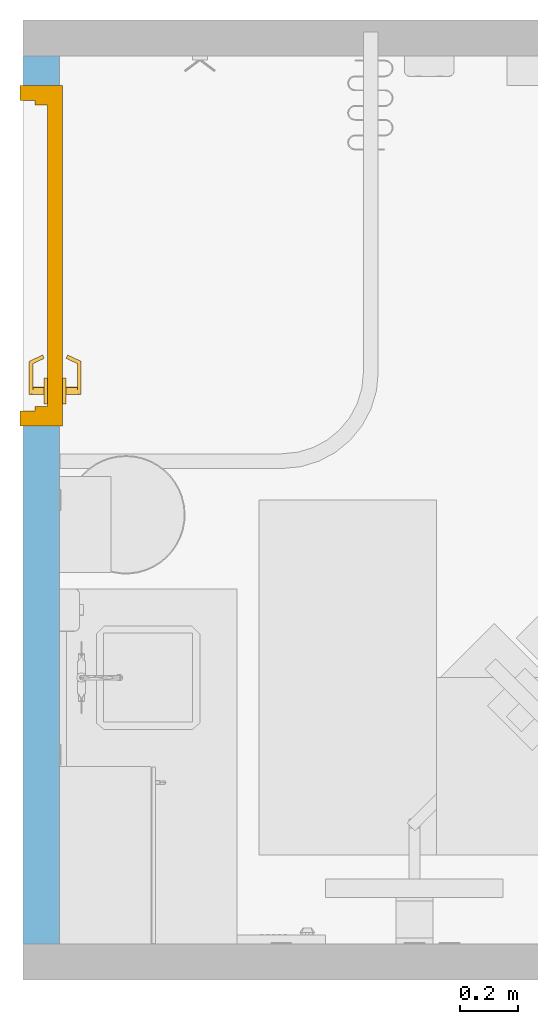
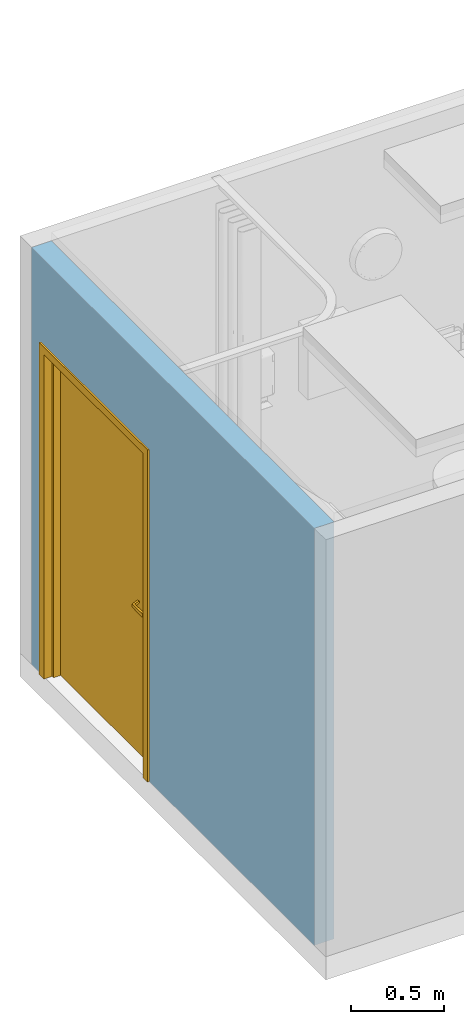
# One storey, part 2 of 9: 1 door, 1 opening, plus 1 element that does not belong to this part.
"""IFC2X3 building model written with IfcOpenShell, lengths in feet."""

from ifc_helpers import new_model, entity, si_unit, converted_unit, derived_unit, direction, frame, frame_2d, origin, place, context, subcontext, project, spatial, rectangle, extrude, faceted_brep, source, transform, mapped, material, layer, layer_set, layer_usage, type_object, type_shapes, element, fill, save


model = new_model("IFC2X3")

# Units and contexts
model_context = context("Model", 3, precision=0.0001, world=origin(), true_north=direction((6.12303176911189e-17, 1.0)))
body_context = subcontext(model_context, "Body", "Model", "MODEL_VIEW")
ifc_project = project(units=[converted_unit("LENGTHUNIT", "FOOT", entity("IfcRatioMeasure", 0.3048), si_unit("LENGTHUNIT", "METRE"), dimensions=[1, 0, 0, 0, 0, 0, 0]), converted_unit("AREAUNIT", "SQUARE FOOT", entity("IfcRatioMeasure", 0.09290304), si_unit("AREAUNIT", "SQUARE_METRE"), dimensions=[2, 0, 0, 0, 0, 0, 0]), converted_unit("VOLUMEUNIT", "CUBIC FOOT", entity("IfcRatioMeasure", 0.028316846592), si_unit("VOLUMEUNIT", "CUBIC_METRE"), dimensions=[3, 0, 0, 0, 0, 0, 0]), converted_unit("PLANEANGLEUNIT", "DEGREE", entity("IfcRatioMeasure", 0.0174532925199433), si_unit("PLANEANGLEUNIT", "RADIAN"), dimensions=[0, 0, 0, 0, 0, 0, 0]), si_unit("MASSUNIT", "GRAM", prefix="KILO"), derived_unit("MASSDENSITYUNIT", [(si_unit("MASSUNIT", "GRAM", prefix="KILO"), 1), (si_unit("LENGTHUNIT", "METRE"), -3)]), si_unit("TIMEUNIT", "SECOND"), si_unit("FREQUENCYUNIT", "HERTZ"), si_unit("THERMODYNAMICTEMPERATUREUNIT", "DEGREE_CELSIUS"), derived_unit("THERMALTRANSMITTANCEUNIT", [(si_unit("MASSUNIT", "GRAM", prefix="KILO"), 1), (si_unit("THERMODYNAMICTEMPERATUREUNIT", "KELVIN"), -1), (si_unit("TIMEUNIT", "SECOND"), -3)]), derived_unit("VOLUMETRICFLOWRATEUNIT", [(si_unit("LENGTHUNIT", "METRE"), 3), (si_unit("TIMEUNIT", "SECOND"), -1)]), si_unit("ELECTRICCURRENTUNIT", "AMPERE"), si_unit("ELECTRICVOLTAGEUNIT", "VOLT"), si_unit("POWERUNIT", "WATT"), si_unit("FORCEUNIT", "NEWTON"), si_unit("ILLUMINANCEUNIT", "LUX"), si_unit("LUMINOUSFLUXUNIT", "LUMEN"), si_unit("LUMINOUSINTENSITYUNIT", "CANDELA"), derived_unit("USERDEFINED", [(si_unit("MASSUNIT", "GRAM", prefix="KILO"), -1), (si_unit("LENGTHUNIT", "METRE"), -2), (si_unit("TIMEUNIT", "SECOND"), 3), (si_unit("LUMINOUSFLUXUNIT", "LUMEN"), 1)]), derived_unit("LINEARVELOCITYUNIT", [(si_unit("LENGTHUNIT", "METRE"), 1), (si_unit("TIMEUNIT", "SECOND"), -1)]), si_unit("PRESSUREUNIT", "PASCAL"), derived_unit("USERDEFINED", [(si_unit("LENGTHUNIT", "METRE"), -2), (si_unit("MASSUNIT", "GRAM", prefix="KILO"), 1), (si_unit("TIMEUNIT", "SECOND"), -2)])], contexts=[model_context])

# Site, building, storey
site_placement = place(None, origin())
site = spatial("IfcSite", under=ifc_project, at=site_placement, Name="Default", CompositionType="ELEMENT")
building_placement = place(site_placement, origin())
building = spatial("IfcBuilding", under=site, at=building_placement, Name="OUTPATIENT / PACT CLINIC (Ch. 265)", CompositionType="ELEMENT")
storey_placement = place(building_placement, origin())
storey = spatial("IfcBuildingStorey", under=building, at=storey_placement, Name="DATUM", CompositionType="ELEMENT", Elevation=0.0)

# Wall, opening, door
ifc_material = material(Name="<Unnamed>")
ifc_layer = layer(ifc_material, 0.40625)
ifc_layer_set = layer_set([ifc_layer], Name="Basic Wall:Interior - 4 7/8\"")
ifc_layer_usage = layer_usage(ifc_layer_set, "AXIS2", "POSITIVE", -0.203125)
wall_type = type_object("IfcWallType", Name="Basic Wall:Interior - 4 7/8\"", PredefinedType="STANDARD", material=ifc_layer_set)
wall_placement = place(storey_placement, frame((209.508362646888, -852.823304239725, 0.0), z_axis=(0.0, 0.0, 1.0), x_axis=(0.0, -1.0, 0.0)))
wall = element("IfcWallStandardCase", 1, at=wall_placement, inside=storey, type_object=wall_type, material=ifc_layer_usage, Name="Basic Wall:Interior - 4 7/8\"", ObjectType="Basic Wall:Interior - 4 7/8\"", context=body_context, shape_type="SweptSolid", body=[
    extrude(rectangle(XDim=10.0000000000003, YDim=0.40625, at=frame_2d((5.00000000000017, 7.82707232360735e-15), x_axis=(-1.0, 0.0))), origin(), (0.0, 0.0, 1.0), 9.0),
])
opening_placement = place(wall_placement, frame((0.333333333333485, -0.203125, 0.0)))
opening = element("IfcOpeningElement", 2, at=opening_placement, cuts=wall, Name="Single - Flush:42\" x 84\":1", ObjectType="Opening", context=body_context, shape_type="SweptSolid", body=[
    extrude(rectangle(XDim=3.83333333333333, YDim=7.16666666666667, at=frame_2d((3.58333333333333, 1.91666666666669), x_axis=(0.0, -1.0))), frame((0.0, 0.0, 0.0), z_axis=(0.0, 1.0, 0.0), x_axis=(0.0, 0.0, 1.0)), (0.0, 0.0, 1.0), 0.40625),
])
door_style = type_object("IfcDoorStyle", Name="42\" x 84\"", ConstructionType="NOTDEFINED", OperationType="NOTDEFINED", ParameterTakesPrecedence=False, Sizeable=False)
shared_shape = source(origin(), body_context, "Body", "Brep", [
    faceted_brep([(3.12432039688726, 0.123080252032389, 3.36458333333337), (3.1307112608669, 0.109375, 3.36458333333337), (3.1307112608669, 0.109375, 3.30208333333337), (3.12432039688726, 0.12308025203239, 3.30208333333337), (3.07149311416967, 0.23636872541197, 3.31250000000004), (3.07149311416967, 0.23636872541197, 3.3541666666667), (3.03373028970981, 0.218759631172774, 3.31250000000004), (3.0865575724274, 0.105471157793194, 3.30208333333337), (3.10416666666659, 0.0677083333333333, 3.30208333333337), (3.10416666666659, 0.067708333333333, 3.36458333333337), (3.0865575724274, 0.105471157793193, 3.36458333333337), (3.03373028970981, 0.218759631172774, 3.3541666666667), (3.10416666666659, 0.109375, 3.30208333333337), (3.10416666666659, 0.109375, 3.36458333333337), (3.43619600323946, 0.0677083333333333, 3.29168707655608), (3.44639661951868, 0.0677083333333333, 3.29262754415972), (3.45605949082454, 0.0677083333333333, 3.29602842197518), (3.46460055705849, 0.0677083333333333, 3.3016841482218), (3.47150356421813, 0.0677083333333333, 3.30925286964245), (3.47635126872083, 0.0677083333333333, 3.31827710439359), (3.47885065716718, 0.0677083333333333, 3.32821139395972), (3.47885065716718, 0.0677083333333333, 3.33845527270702), (3.47635126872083, 0.0677083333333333, 3.34838956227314), (3.47150356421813, 0.0677083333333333, 3.35741379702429), (3.46460055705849, 0.0677083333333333, 3.36498251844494), (3.45605949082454, 0.0677083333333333, 3.37063824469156), (3.44639661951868, 0.0677083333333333, 3.37403912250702), (3.43619600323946, 0.0677083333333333, 3.37497959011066), (3.42566985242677, 0.109375, 3.29338137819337), (3.43619600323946, 0.109375, 3.29168707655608), (3.43619600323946, 0.109375, 3.37497959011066), (3.42566985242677, 0.109375, 3.37328528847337), (3.41591827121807, 0.109375, 3.36897516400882), (3.40757973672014, 0.109375, 3.36233141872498), (3.40120020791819, 0.109375, 3.35378904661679), (3.3971973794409, 0.109375, 3.34390735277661), (3.39583333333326, 0.109375, 3.33333333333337), (3.3971973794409, 0.109375, 3.32275931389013), (3.40120020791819, 0.109375, 3.31287762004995), (3.40757973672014, 0.109375, 3.30433524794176), (3.41591827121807, 0.109375, 3.29769150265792), (3.44568224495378, 0.109375, 3.29247795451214), (3.45473886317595, 0.109375, 3.2954000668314), (3.46289592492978, 0.109375, 3.30030065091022), (3.46972778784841, 0.109375, 3.30692347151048), (3.47487870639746, 0.109375, 3.31492291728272), (3.47808054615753, 0.109375, 3.32388185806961), (3.47916666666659, 0.109375, 3.33333333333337), (3.47808054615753, 0.109375, 3.34278480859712), (3.47487870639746, 0.109375, 3.35174374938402), (3.46972778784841, 0.109375, 3.35974319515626), (3.46289592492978, 0.109375, 3.36636601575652), (3.45473886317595, 0.109375, 3.37126659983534), (3.44568224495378, 0.109375, 3.3741887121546), (3.47774690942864, 0.234375, 3.34411746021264), (3.47916666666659, 0.234375, 3.33333333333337), (3.47358439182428, 0.234375, 3.3541666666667), (3.46696278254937, 0.234375, 3.36279611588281), (3.45833333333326, 0.234375, 3.36941772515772), (3.4482841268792, 0.234375, 3.37358024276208), (3.43749999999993, 0.234375, 3.37500000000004), (3.42671587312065, 0.234375, 3.37358024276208), (3.41666666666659, 0.234375, 3.36941772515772), (3.40803721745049, 0.234375, 3.36279611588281), (3.40141560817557, 0.234375, 3.3541666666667), (3.39725309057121, 0.234375, 3.34411746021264), (3.39583333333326, 0.234375, 3.33333333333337), (3.39725309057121, 0.234375, 3.3225492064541), (3.40141560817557, 0.234375, 3.31250000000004), (3.40803721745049, 0.234375, 3.30387055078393), (3.41666666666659, 0.234375, 3.29724894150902), (3.42671587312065, 0.234375, 3.29308642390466), (3.43749999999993, 0.234375, 3.2916666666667), (3.4482841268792, 0.234375, 3.29308642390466), (3.45833333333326, 0.234375, 3.29724894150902), (3.46696278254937, 0.234375, 3.30387055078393), (3.47358439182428, 0.234375, 3.31250000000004), (3.47774690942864, 0.234375, 3.3225492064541), (3.36458333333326, 0.234375, 3.4596287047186), (3.33438026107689, 0.234375, 3.43645307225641), (3.39975555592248, 0.234375, 3.47419751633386), (3.43749999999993, 0.234375, 3.4791666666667), (3.47524444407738, 0.234375, 3.47419751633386), (3.51041666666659, 0.234375, 3.4596287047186), (3.54061973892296, 0.234375, 3.43645307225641), (3.56379537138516, 0.234375, 3.40625000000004), (3.57836418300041, 0.234375, 3.37107777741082), (3.58333333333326, 0.234375, 3.33333333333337), (3.57836418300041, 0.234375, 3.29558888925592), (3.56379537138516, 0.234375, 3.2604166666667), (3.54061973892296, 0.234375, 3.23021359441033), (3.51041666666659, 0.234375, 3.20703796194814), (3.47524444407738, 0.234375, 3.19246915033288), (3.43749999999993, 0.234375, 3.18750000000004), (3.39975555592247, 0.234375, 3.19246915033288), (3.36458333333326, 0.234375, 3.20703796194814), (3.33438026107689, 0.234375, 3.23021359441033), (3.3112046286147, 0.234375, 3.2604166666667), (3.29663581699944, 0.234375, 3.29558888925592), (3.29166666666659, 0.234375, 3.33333333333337), (3.29663581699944, 0.234375, 3.37107777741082), (3.3112046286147, 0.234375, 3.40625000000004), (3.33438026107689, 0.276041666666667, 3.23021359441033), (3.3112046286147, 0.276041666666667, 3.2604166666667), (3.29663581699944, 0.276041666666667, 3.29558888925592), (3.29166666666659, 0.276041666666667, 3.33333333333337), (3.29663581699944, 0.276041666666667, 3.37107777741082), (3.3112046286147, 0.276041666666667, 3.40625000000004), (3.33438026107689, 0.276041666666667, 3.43645307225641), (3.36458333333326, 0.276041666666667, 3.4596287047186), (3.39975555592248, 0.276041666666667, 3.47419751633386), (3.43749999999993, 0.276041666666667, 3.4791666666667), (3.47524444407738, 0.276041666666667, 3.47419751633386), (3.51041666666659, 0.276041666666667, 3.4596287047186), (3.54061973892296, 0.276041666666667, 3.43645307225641), (3.56379537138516, 0.276041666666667, 3.40625000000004), (3.57836418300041, 0.276041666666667, 3.37107777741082), (3.58333333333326, 0.276041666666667, 3.33333333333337), (3.57836418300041, 0.276041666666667, 3.29558888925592), (3.56379537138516, 0.276041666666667, 3.2604166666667), (3.54061973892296, 0.276041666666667, 3.23021359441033), (3.51041666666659, 0.276041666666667, 3.20703796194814), (3.47524444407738, 0.276041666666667, 3.19246915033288), (3.43749999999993, 0.276041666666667, 3.18750000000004), (3.39975555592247, 0.276041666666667, 3.19246915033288), (3.36458333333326, 0.276041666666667, 3.20703796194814)], [[[0, 1, 2, 3, 4, 5]], [[6, 7, 8, 9, 10, 11]], [[3, 2, 12, 8, 7]], [[4, 3, 7, 6]], [[5, 4, 6, 11]], [[0, 5, 11, 10]], [[1, 0, 10, 9, 13]], [[9, 8, 14, 15, 16, 17, 18, 19, 20, 21, 22, 23, 24, 25, 26, 27]], [[28, 29, 12, 2, 1, 13, 30, 31, 32, 33, 34, 35, 36, 37, 38, 39, 40]], [[14, 8, 12, 29]], [[41, 14, 29]], [[42, 15, 41]], [[17, 43, 44]], [[44, 45, 18]], [[42, 43, 16]], [[46, 19, 45]], [[42, 16, 15]], [[15, 14, 41]], [[19, 18, 45]], [[17, 44, 18]], [[17, 16, 43]], [[20, 19, 46]], [[46, 47, 20]], [[48, 21, 47]], [[49, 22, 48]], [[24, 50, 51]], [[51, 52, 25]], [[49, 50, 23]], [[53, 26, 52]], [[24, 23, 50]], [[23, 22, 49]], [[22, 21, 48]], [[27, 26, 53]], [[25, 52, 26]], [[25, 24, 51]], [[27, 53, 30]], [[47, 21, 20]], [[9, 27, 30, 13]], [[54, 48, 55]], [[56, 49, 54]], [[51, 57, 58]], [[56, 57, 50]], [[52, 58, 59]], [[54, 49, 48]], [[48, 47, 55]], [[52, 51, 58]], [[50, 57, 51]], [[50, 49, 56]], [[53, 52, 59]], [[59, 60, 53]], [[61, 30, 60]], [[62, 31, 61]], [[33, 63, 64]], [[64, 65, 34]], [[62, 63, 32]], [[66, 35, 65]], [[62, 32, 31]], [[31, 30, 61]], [[35, 34, 65]], [[33, 64, 34]], [[33, 32, 63]], [[36, 35, 66]], [[60, 30, 53]], [[67, 37, 66]], [[68, 38, 67]], [[40, 69, 70]], [[68, 69, 39]], [[28, 70, 71]], [[67, 38, 37]], [[37, 36, 66]], [[28, 40, 70]], [[39, 69, 40]], [[39, 38, 68]], [[29, 28, 71]], [[71, 72, 29]], [[73, 41, 72]], [[74, 42, 73]], [[44, 75, 76]], [[76, 77, 45]], [[74, 75, 43]], [[55, 46, 77]], [[74, 43, 42]], [[42, 41, 73]], [[46, 45, 77]], [[44, 76, 45]], [[44, 43, 75]], [[47, 46, 55]], [[72, 41, 29]], [[62, 61, 78]], [[79, 62, 78]], [[62, 79, 63]], [[61, 80, 78]], [[80, 61, 60]], [[80, 60, 81]], [[59, 81, 60]], [[81, 59, 82]], [[59, 58, 82]], [[83, 82, 58]], [[57, 83, 58]], [[83, 57, 84]], [[56, 84, 57]], [[85, 84, 56]], [[54, 85, 56]], [[86, 85, 54]], [[86, 54, 55]], [[86, 55, 87]], [[87, 55, 77]], [[87, 77, 88]], [[88, 77, 76]], [[88, 76, 89]], [[90, 89, 76]], [[90, 76, 75]], [[75, 91, 90]], [[75, 74, 91]], [[92, 91, 74]], [[73, 92, 74]], [[73, 93, 92]], [[93, 73, 72]], [[72, 94, 93]], [[71, 94, 72]], [[94, 71, 95]], [[70, 95, 71]], [[96, 95, 70]], [[96, 70, 69]], [[96, 69, 97]], [[97, 69, 68]], [[97, 68, 98]], [[67, 98, 68]], [[99, 98, 67]], [[67, 66, 99]], [[66, 100, 99]], [[100, 66, 65]], [[100, 65, 101]], [[65, 64, 101]], [[63, 101, 64]], [[79, 101, 63]], [[102, 103, 104, 105, 106, 107, 108, 109, 110, 111, 112, 113, 114, 115, 116, 117, 118, 119, 120, 121, 122, 123, 124, 125]], [[116, 86, 87, 117]], [[115, 85, 86, 116]], [[83, 84, 114, 113]], [[115, 114, 84, 85]], [[82, 83, 113, 112]], [[81, 82, 112, 111]], [[110, 80, 81, 111]], [[109, 78, 80, 110]], [[101, 79, 108, 107]], [[109, 108, 79, 78]], [[100, 101, 107, 106]], [[99, 100, 106, 105]], [[104, 98, 99, 105]], [[103, 97, 98, 104]], [[95, 96, 102, 125]], [[103, 102, 96, 97]], [[94, 95, 125, 124]], [[93, 94, 124, 123]], [[122, 92, 93, 123]], [[121, 91, 92, 122]], [[89, 90, 120, 119]], [[121, 120, 90, 91]], [[88, 89, 119, 118]], [[87, 88, 118, 117]]]),
    faceted_brep([(3.12432039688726, 0.595669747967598, 3.30208333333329), (3.13071126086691, 0.609374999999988, 3.30208333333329), (3.13071126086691, 0.609374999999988, 3.36458333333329), (3.12432039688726, 0.595669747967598, 3.36458333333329), (3.07149311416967, 0.482381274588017, 3.35416666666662), (3.07149311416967, 0.482381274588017, 3.31249999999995), (3.03373028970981, 0.499990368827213, 3.35416666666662), (3.0865575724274, 0.613278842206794, 3.36458333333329), (3.10416666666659, 0.651041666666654, 3.36458333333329), (3.10416666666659, 0.651041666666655, 3.30208333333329), (3.0865575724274, 0.613278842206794, 3.30208333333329), (3.03373028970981, 0.499990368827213, 3.31249999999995), (3.10416666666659, 0.609374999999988, 3.36458333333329), (3.10416666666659, 0.609374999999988, 3.30208333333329), (3.43619600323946, 0.651041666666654, 3.37497959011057), (3.44639661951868, 0.651041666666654, 3.37403912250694), (3.45605949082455, 0.651041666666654, 3.37063824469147), (3.46460055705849, 0.651041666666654, 3.36498251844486), (3.47150356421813, 0.651041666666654, 3.35741379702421), (3.47635126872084, 0.651041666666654, 3.34838956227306), (3.47885065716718, 0.651041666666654, 3.33845527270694), (3.47885065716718, 0.651041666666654, 3.32821139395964), (3.47635126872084, 0.651041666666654, 3.31827710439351), (3.47150356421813, 0.651041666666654, 3.30925286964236), (3.4646005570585, 0.651041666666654, 3.30168414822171), (3.45605949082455, 0.651041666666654, 3.2960284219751), (3.44639661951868, 0.651041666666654, 3.29262754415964), (3.43619600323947, 0.651041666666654, 3.291687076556), (3.42566985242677, 0.609374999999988, 3.37328528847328), (3.43619600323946, 0.609374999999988, 3.37497959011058), (3.43619600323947, 0.609374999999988, 3.291687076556), (3.42566985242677, 0.609374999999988, 3.29338137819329), (3.41591827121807, 0.609374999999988, 3.29769150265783), (3.40757973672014, 0.609374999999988, 3.30433524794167), (3.40120020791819, 0.609374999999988, 3.31287762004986), (3.3971973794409, 0.609374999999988, 3.32275931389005), (3.39583333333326, 0.609374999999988, 3.33333333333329), (3.3971973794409, 0.609374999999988, 3.34390735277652), (3.40120020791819, 0.609374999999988, 3.35378904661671), (3.40757973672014, 0.609374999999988, 3.3623314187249), (3.41591827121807, 0.609374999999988, 3.36897516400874), (3.44568224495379, 0.609374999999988, 3.37418871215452), (3.45473886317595, 0.609374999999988, 3.37126659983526), (3.46289592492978, 0.609374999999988, 3.36636601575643), (3.46972778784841, 0.609374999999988, 3.35974319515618), (3.47487870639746, 0.609374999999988, 3.35174374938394), (3.47808054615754, 0.609374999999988, 3.34278480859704), (3.47916666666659, 0.609374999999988, 3.33333333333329), (3.47808054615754, 0.609374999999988, 3.32388185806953), (3.47487870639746, 0.609374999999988, 3.31492291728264), (3.46972778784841, 0.609374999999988, 3.30692347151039), (3.46289592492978, 0.609374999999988, 3.30030065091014), (3.45473886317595, 0.609374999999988, 3.29540006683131), (3.44568224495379, 0.609374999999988, 3.29247795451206), (3.47774690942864, 0.484374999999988, 3.32254920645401), (3.47916666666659, 0.484374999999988, 3.33333333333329), (3.47358439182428, 0.484374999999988, 3.31249999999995), (3.46696278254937, 0.484374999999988, 3.30387055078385), (3.45833333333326, 0.484374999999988, 3.29724894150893), (3.4482841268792, 0.484374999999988, 3.29308642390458), (3.43749999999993, 0.484374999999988, 3.29166666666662), (3.42671587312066, 0.484374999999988, 3.29308642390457), (3.41666666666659, 0.484374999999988, 3.29724894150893), (3.40803721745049, 0.484374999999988, 3.30387055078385), (3.40141560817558, 0.484374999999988, 3.31249999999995), (3.39725309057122, 0.484374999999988, 3.32254920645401), (3.39583333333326, 0.484374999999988, 3.33333333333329), (3.39725309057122, 0.484374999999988, 3.34411746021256), (3.40141560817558, 0.484374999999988, 3.35416666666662), (3.40803721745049, 0.484374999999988, 3.36279611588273), (3.41666666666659, 0.484374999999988, 3.36941772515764), (3.42671587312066, 0.484374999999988, 3.373580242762), (3.43749999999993, 0.484374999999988, 3.37499999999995), (3.4482841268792, 0.484374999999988, 3.373580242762), (3.45833333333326, 0.484374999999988, 3.36941772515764), (3.46696278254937, 0.484374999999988, 3.36279611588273), (3.47358439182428, 0.484374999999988, 3.35416666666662), (3.47774690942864, 0.484374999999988, 3.34411746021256), (3.36458333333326, 0.484374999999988, 3.20703796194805), (3.33438026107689, 0.484374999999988, 3.23021359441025), (3.39975555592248, 0.484374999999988, 3.1924691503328), (3.43749999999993, 0.484374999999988, 3.18749999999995), (3.47524444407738, 0.484374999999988, 3.1924691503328), (3.51041666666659, 0.484374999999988, 3.20703796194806), (3.54061973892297, 0.484374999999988, 3.23021359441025), (3.56379537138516, 0.484374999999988, 3.26041666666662), (3.57836418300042, 0.484374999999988, 3.29558888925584), (3.58333333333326, 0.484374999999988, 3.33333333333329), (3.57836418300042, 0.484374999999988, 3.37107777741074), (3.56379537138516, 0.484374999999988, 3.40624999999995), (3.54061973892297, 0.484374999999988, 3.43645307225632), (3.51041666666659, 0.484374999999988, 3.45962870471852), (3.47524444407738, 0.484374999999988, 3.47419751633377), (3.43749999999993, 0.484374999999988, 3.47916666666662), (3.39975555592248, 0.484374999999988, 3.47419751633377), (3.36458333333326, 0.484374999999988, 3.45962870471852), (3.33438026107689, 0.484374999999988, 3.43645307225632), (3.3112046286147, 0.484374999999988, 3.40624999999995), (3.29663581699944, 0.484374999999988, 3.37107777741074), (3.29166666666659, 0.484374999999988, 3.33333333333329), (3.29663581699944, 0.484374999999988, 3.29558888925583), (3.3112046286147, 0.484374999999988, 3.26041666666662), (3.33438026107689, 0.442708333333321, 3.43645307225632), (3.3112046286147, 0.442708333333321, 3.40624999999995), (3.29663581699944, 0.442708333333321, 3.37107777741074), (3.29166666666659, 0.442708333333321, 3.33333333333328), (3.29663581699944, 0.442708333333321, 3.29558888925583), (3.3112046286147, 0.442708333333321, 3.26041666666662), (3.33438026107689, 0.442708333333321, 3.23021359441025), (3.36458333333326, 0.442708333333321, 3.20703796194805), (3.39975555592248, 0.442708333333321, 3.1924691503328), (3.43749999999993, 0.442708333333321, 3.18749999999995), (3.47524444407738, 0.442708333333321, 3.1924691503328), (3.51041666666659, 0.442708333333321, 3.20703796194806), (3.54061973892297, 0.442708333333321, 3.23021359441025), (3.56379537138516, 0.442708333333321, 3.26041666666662), (3.57836418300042, 0.442708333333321, 3.29558888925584), (3.58333333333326, 0.442708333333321, 3.33333333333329), (3.57836418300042, 0.442708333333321, 3.37107777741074), (3.56379537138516, 0.442708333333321, 3.40624999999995), (3.54061973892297, 0.442708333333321, 3.43645307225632), (3.51041666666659, 0.442708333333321, 3.45962870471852), (3.47524444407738, 0.442708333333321, 3.47419751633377), (3.43749999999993, 0.442708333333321, 3.47916666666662), (3.39975555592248, 0.442708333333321, 3.47419751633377), (3.36458333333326, 0.442708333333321, 3.45962870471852)], [[[0, 1, 2, 3, 4, 5]], [[6, 7, 8, 9, 10, 11]], [[3, 2, 12, 8, 7]], [[4, 3, 7, 6]], [[5, 4, 6, 11]], [[0, 5, 11, 10]], [[1, 0, 10, 9, 13]], [[9, 8, 14, 15, 16, 17, 18, 19, 20, 21, 22, 23, 24, 25, 26, 27]], [[28, 29, 12, 2, 1, 13, 30, 31, 32, 33, 34, 35, 36, 37, 38, 39, 40]], [[14, 8, 12, 29]], [[41, 14, 29]], [[42, 15, 41]], [[17, 43, 44]], [[44, 45, 18]], [[42, 43, 16]], [[46, 19, 45]], [[42, 16, 15]], [[15, 14, 41]], [[19, 18, 45]], [[17, 44, 18]], [[17, 16, 43]], [[20, 19, 46]], [[46, 47, 20]], [[48, 21, 47]], [[49, 22, 48]], [[24, 50, 51]], [[51, 52, 25]], [[49, 50, 23]], [[53, 26, 52]], [[24, 23, 50]], [[23, 22, 49]], [[22, 21, 48]], [[27, 26, 53]], [[25, 52, 26]], [[25, 24, 51]], [[27, 53, 30]], [[47, 21, 20]], [[9, 27, 30, 13]], [[54, 48, 55]], [[56, 49, 54]], [[51, 57, 58]], [[56, 57, 50]], [[52, 58, 59]], [[54, 49, 48]], [[48, 47, 55]], [[52, 51, 58]], [[50, 57, 51]], [[50, 49, 56]], [[53, 52, 59]], [[59, 60, 53]], [[61, 30, 60]], [[62, 31, 61]], [[33, 63, 64]], [[64, 65, 34]], [[62, 63, 32]], [[66, 35, 65]], [[62, 32, 31]], [[31, 30, 61]], [[35, 34, 65]], [[33, 64, 34]], [[33, 32, 63]], [[36, 35, 66]], [[60, 30, 53]], [[67, 37, 66]], [[68, 38, 67]], [[40, 69, 70]], [[68, 69, 39]], [[28, 70, 71]], [[67, 38, 37]], [[37, 36, 66]], [[28, 40, 70]], [[39, 69, 40]], [[39, 38, 68]], [[29, 28, 71]], [[71, 72, 29]], [[73, 41, 72]], [[74, 42, 73]], [[44, 75, 76]], [[76, 77, 45]], [[74, 75, 43]], [[55, 46, 77]], [[74, 43, 42]], [[42, 41, 73]], [[46, 45, 77]], [[44, 76, 45]], [[44, 43, 75]], [[47, 46, 55]], [[72, 41, 29]], [[62, 61, 78]], [[79, 62, 78]], [[62, 79, 63]], [[61, 80, 78]], [[80, 61, 60]], [[80, 60, 81]], [[59, 81, 60]], [[81, 59, 82]], [[59, 58, 82]], [[83, 82, 58]], [[57, 83, 58]], [[83, 57, 84]], [[56, 84, 57]], [[85, 84, 56]], [[54, 85, 56]], [[86, 85, 54]], [[86, 54, 55]], [[86, 55, 87]], [[87, 55, 77]], [[87, 77, 88]], [[88, 77, 76]], [[88, 76, 89]], [[90, 89, 76]], [[90, 76, 75]], [[75, 91, 90]], [[75, 74, 91]], [[92, 91, 74]], [[73, 92, 74]], [[73, 93, 92]], [[93, 73, 72]], [[72, 94, 93]], [[71, 94, 72]], [[94, 71, 95]], [[70, 95, 71]], [[96, 95, 70]], [[96, 70, 69]], [[96, 69, 97]], [[97, 69, 68]], [[97, 68, 98]], [[67, 98, 68]], [[99, 98, 67]], [[67, 66, 99]], [[66, 100, 99]], [[100, 66, 65]], [[100, 65, 101]], [[65, 64, 101]], [[63, 101, 64]], [[79, 101, 63]], [[102, 103, 104, 105, 106, 107, 108, 109, 110, 111, 112, 113, 114, 115, 116, 117, 118, 119, 120, 121, 122, 123, 124, 125]], [[116, 86, 87, 117]], [[115, 85, 86, 116]], [[83, 84, 114, 113]], [[115, 114, 84, 85]], [[82, 83, 113, 112]], [[81, 82, 112, 111]], [[110, 80, 81, 111]], [[109, 78, 80, 110]], [[101, 79, 108, 107]], [[109, 108, 79, 78]], [[100, 101, 107, 106]], [[99, 100, 106, 105]], [[104, 98, 99, 105]], [[103, 97, 98, 104]], [[95, 96, 102, 125]], [[103, 102, 96, 97]], [[94, 95, 125, 124]], [[93, 94, 124, 123]], [[122, 92, 93, 123]], [[121, 91, 92, 122]], [[89, 90, 120, 119]], [[121, 120, 90, 91]], [[88, 89, 119, 118]], [[87, 88, 118, 117]]]),
    faceted_brep([(0.16666666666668, 0.442708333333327, 7.0), (3.66666666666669, 0.442708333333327, 7.0), (3.66666666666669, 0.442708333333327, 0.0), (0.16666666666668, 0.442708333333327, 0.0), (0.16666666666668, 0.276041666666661, 7.0), (0.16666666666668, 0.276041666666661, 0.0), (3.66666666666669, 0.276041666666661, 0.0), (3.66666666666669, 0.276041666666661, 7.0)], [[[0, 1, 2, 3]], [[4, 5, 6, 7]], [[1, 0, 4, 7]], [[2, 1, 7, 6]], [[3, 2, 6, 5]], [[0, 3, 5, 4]]]),
    faceted_brep([(0.166666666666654, 0.442708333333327, 0.0), (0.166666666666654, 0.276041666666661, 0.0), (0.218749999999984, 0.276041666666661, 0.0), (0.218749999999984, 0.130208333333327, 0.0), (0.166666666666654, 0.130208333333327, 0.0), (0.166666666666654, -0.0364583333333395, 0.0), (0.0, -0.0364583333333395, 0.0), (0.0, 0.442708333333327, 0.0), (0.166666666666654, 0.442708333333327, 7.0), (0.166666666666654, 0.276041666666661, 7.0), (3.66666666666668, 0.276041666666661, 7.0), (3.66666666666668, 0.276041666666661, 0.0), (3.61458333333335, 0.27604166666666, 0.0), (3.61458333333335, 0.276041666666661, 6.94791666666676), (0.218749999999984, 0.276041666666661, 6.94791666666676), (0.218749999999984, 0.130208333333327, 6.94791666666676), (3.61458333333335, 0.130208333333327, 6.94791666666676), (3.61458333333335, 0.130208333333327, 0.0), (3.66666666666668, 0.130208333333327, 0.0), (3.66666666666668, 0.130208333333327, 7.0), (0.166666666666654, 0.130208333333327, 7.0), (0.166666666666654, -0.0364583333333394, 7.0), (3.66666666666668, -0.0364583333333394, 7.0), (3.66666666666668, -0.0364583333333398, 0.0), (3.83333333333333, -0.0364583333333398, 0.0), (3.83333333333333, -0.0364583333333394, 7.16666666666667), (0.0, -0.0364583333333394, 7.16666666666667), (0.0, 0.442708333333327, 7.16666666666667), (3.83333333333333, 0.442708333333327, 7.16666666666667), (3.83333333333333, 0.442708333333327, 0.0), (3.66666666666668, 0.442708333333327, 0.0), (3.66666666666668, 0.442708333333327, 7.0)], [[[0, 1, 2, 3, 4, 5, 6, 7]], [[1, 0, 8, 9]], [[2, 1, 9, 10, 11, 12, 13, 14]], [[3, 2, 14, 15]], [[4, 3, 15, 16, 17, 18, 19, 20]], [[5, 4, 20, 21]], [[6, 5, 21, 22, 23, 24, 25, 26]], [[7, 6, 26, 27]], [[0, 7, 27, 28, 29, 30, 31, 8]], [[30, 11, 10, 31]], [[30, 29, 24, 23, 18, 17, 12, 11]], [[12, 17, 16, 13]], [[19, 18, 23, 22]], [[29, 28, 25, 24]], [[10, 9, 8, 31]], [[15, 14, 13, 16]], [[21, 20, 19, 22]], [[25, 28, 27, 26]]]),
])
type_shapes(door_style, [shared_shape])
door_placement = place(opening_placement, origin())
door = element("IfcDoor", 3, at=door_placement, inside=storey, type_object=door_style, Name="Single - Flush:42\" x 84\"", ObjectType="42\" x 84\"", OverallHeight=7.16666666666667, OverallWidth=3.83333333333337, context=body_context, shape_type="MappedRepresentation", body=[
    mapped(shared_shape, transform((0.0, 0.0, 0.0), scale=1.0)),
])
fill(opening, door)

save(model, "model.ifc")
